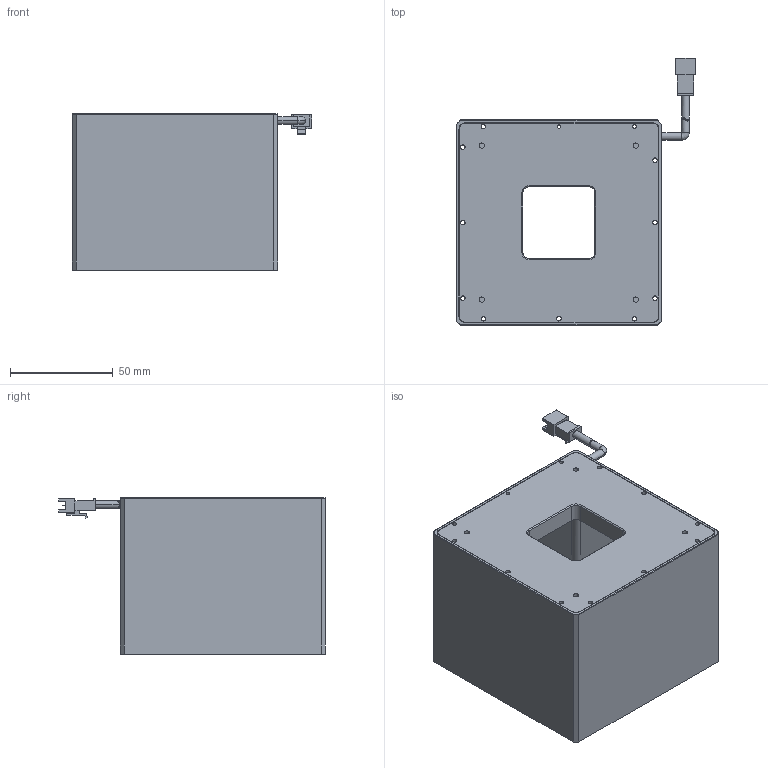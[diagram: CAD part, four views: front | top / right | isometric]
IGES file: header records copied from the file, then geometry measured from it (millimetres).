
Start section: File generated by Shapr3D Version 3.0
Global section: file name: temp_export; native system: Shapr3D; preprocessor: 3.0; date: 220221.013612; units: millimetre
Bounding box: 116.63 x 129.98 x 76 mm (x, y, z)
Volume: 442528.8 mm3; surface area: 141207.6 mm2
Topology: 6 solids, 6 shells, 301 faces, 808 edges, 526 vertices
Faces by surface type: plane 153, cylinder 134, cone 12, revolution 2
